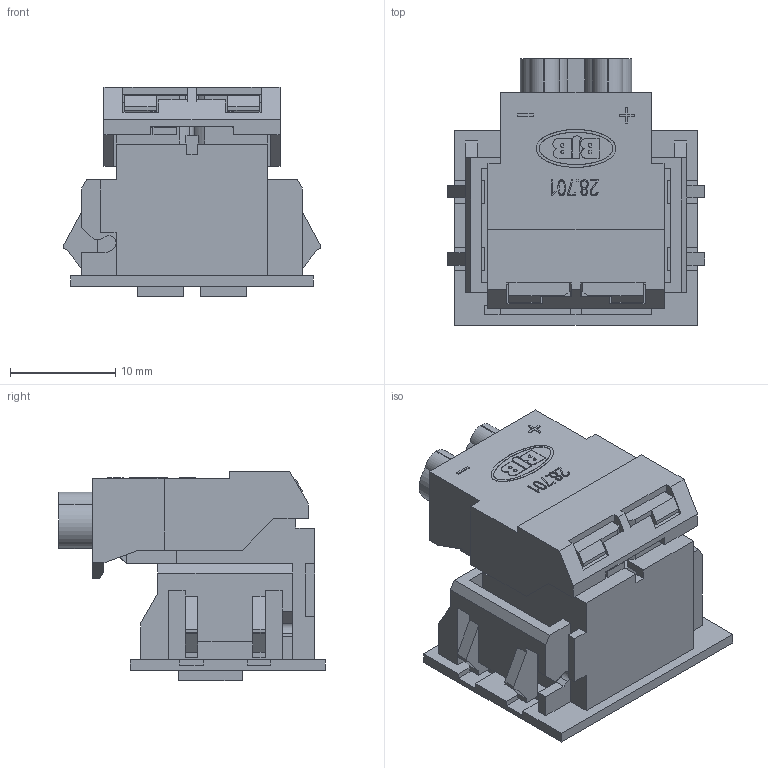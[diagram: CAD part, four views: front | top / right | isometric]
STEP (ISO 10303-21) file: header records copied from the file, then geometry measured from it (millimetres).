
FILE_DESCRIPTION((' '),'1');
FILE_NAME('01VYS0RY01.stp','2015-03-16 T08:26:29',(''),(''),'STEP Interface 2013.192 by CT CoreTechnologie','3D_Evolution2013.192 by CT CoreTechnologie','');
FILE_SCHEMA(('AP203_CONFIGURATION_CONTROLLED_3D_DESIGN_OF_MECHANICAL_PARTS_AND_ASSEMBLIES_MIM_LF'));
Length unit declared in the file: millimetre
Products named in the file (1): 01VYS0RY01
Bounding box: 24.4 x 25.3 x 19.9 mm (x, y, z)
Volume: 3408.8 mm3; surface area: 6548 mm2
Topology: 2 solids, 2 shells, 562 faces, 1608 edges, 1064 vertices
Faces by surface type: plane 488, cylinder 52, bspline 22
Entity records: 23280 total; most frequent: CARTESIAN_POINT 4070, ORIENTED_EDGE 3216, DIRECTION 2760, EDGE_CURVE 1608, VECTOR 1460, LINE 1460, VERTEX_POINT 1064, AXIS2_PLACEMENT_3D 650
